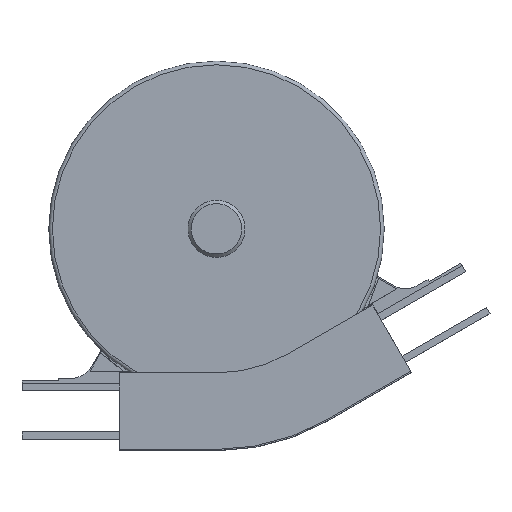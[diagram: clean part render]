
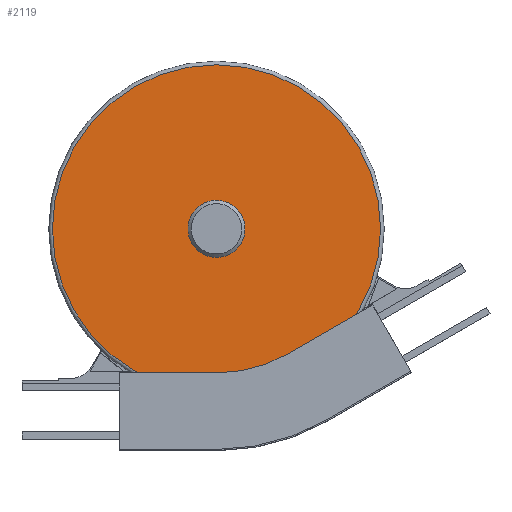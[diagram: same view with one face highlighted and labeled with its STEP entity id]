
A CAD part, top view. The second image highlights one B-rep face of the part: STEP entity #2119.
In plain terms, the highlighted planar face has unit normal (0, 0, 1).
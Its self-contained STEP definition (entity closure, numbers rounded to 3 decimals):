
#44=FACE_BOUND('',#347,.T.);
#83=CIRCLE('',#2281,21.);
#84=CIRCLE('',#2283,135.);
#218=FACE_OUTER_BOUND('',#346,.T.);
#346=EDGE_LOOP('',(#1799));
#347=EDGE_LOOP('',(#1800));
#1027=VERTEX_POINT('',#3369);
#1028=VERTEX_POINT('',#3373);
#1291=EDGE_CURVE('',#1027,#1027,#83,.T.);
#1293=EDGE_CURVE('',#1028,#1028,#84,.T.);
#1799=ORIENTED_EDGE('',*,*,#1293,.F.);
#1800=ORIENTED_EDGE('',*,*,#1291,.T.);
#2008=PLANE('',#2282);
#2119=ADVANCED_FACE('',(#218,#44),#2008,.T.);
#2281=AXIS2_PLACEMENT_3D('',#3370,#2754,#2755);
#2282=AXIS2_PLACEMENT_3D('',#3372,#2757,#2758);
#2283=AXIS2_PLACEMENT_3D('',#3374,#2759,#2760);
#2754=DIRECTION('center_axis',(0.,0.,-1.));
#2755=DIRECTION('ref_axis',(1.,0.,0.));
#2757=DIRECTION('center_axis',(0.,0.,1.));
#2758=DIRECTION('ref_axis',(1.,0.,0.));
#2759=DIRECTION('center_axis',(0.,0.,-1.));
#2760=DIRECTION('ref_axis',(1.,0.,0.));
#3369=CARTESIAN_POINT('',(85.435,129.716,33.5));
#3370=CARTESIAN_POINT('Origin',(80.,150.,33.5));
#3372=CARTESIAN_POINT('Origin',(45.059,280.4,33.5));
#3373=CARTESIAN_POINT('',(215.,150.,33.5));
#3374=CARTESIAN_POINT('Origin',(80.,150.,33.5));
